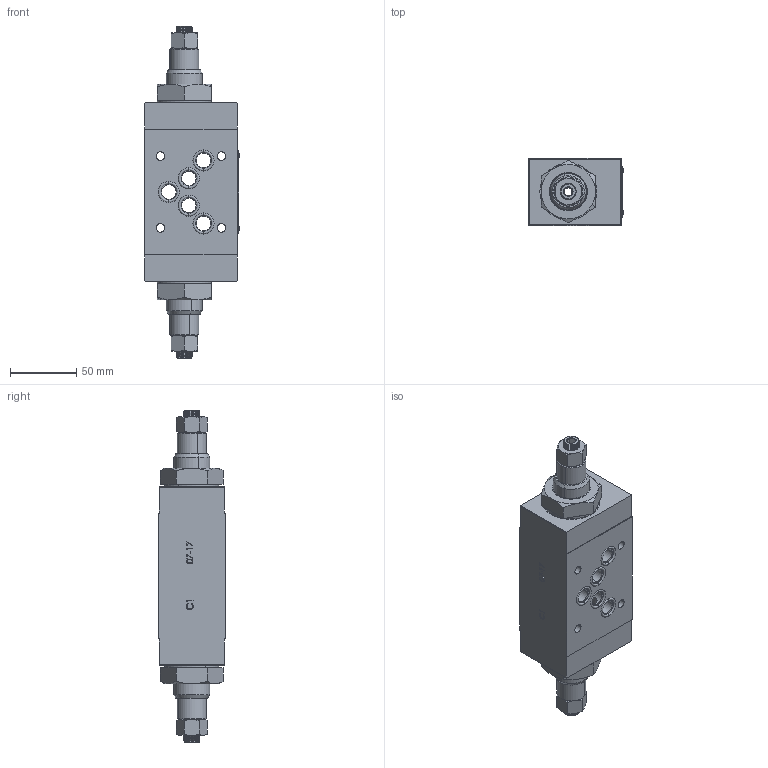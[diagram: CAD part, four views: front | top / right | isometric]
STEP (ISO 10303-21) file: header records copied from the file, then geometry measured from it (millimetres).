
FILE_DESCRIPTION (( 'STEP AP214' ), '1' );
FILE_NAME ('358-5-AB-05.STEP', '2019-12-04T08:48:28', ( '' ), ( '' ), 'SwSTEP 2.0', 'SolidWorks 2018', '' );
FILE_SCHEMA (( 'AUTOMOTIVE_DESIGN' ));
Length unit declared in the file: millimetre
Products named in the file (1): 358-5-AB-05
Bounding box: 71.66 x 50.58 x 250.6 mm (x, y, z)
Surface area: 66243.3 mm2 (no closed solid volume)
Topology: 0 solids, 80 shells, 691 faces, 3486 edges, 2807 vertices
Faces by surface type: plane 364, cone 132, cylinder 115, bspline 52, torus 20, sphere 8
Entity records: 53857 total; most frequent: CARTESIAN_POINT 20845, ORIENTED_EDGE 4620, DIRECTION 4448, EDGE_CURVE 3484, VERTEX_POINT 2807, LINE 2156, VECTOR 2156, AXIS2_PLACEMENT_3D 1146
